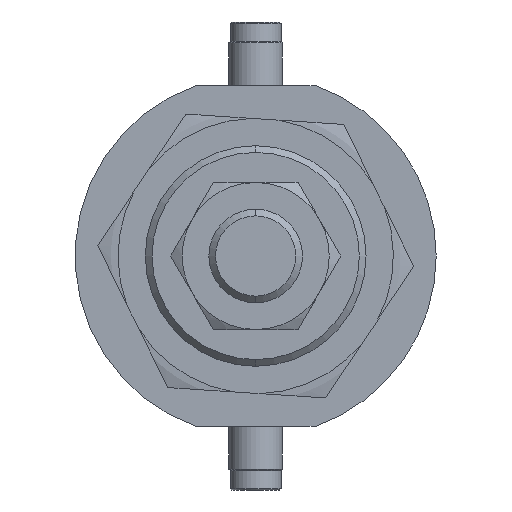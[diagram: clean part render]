
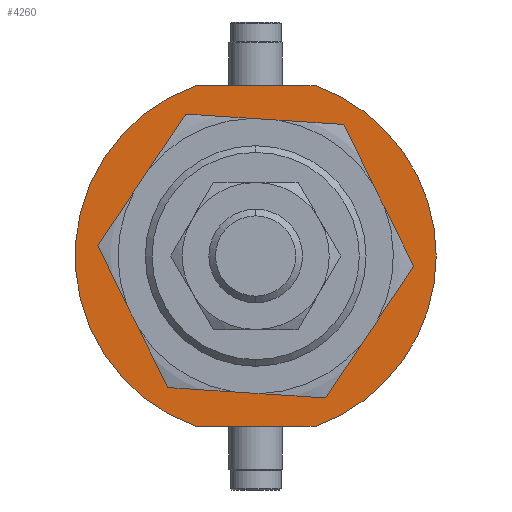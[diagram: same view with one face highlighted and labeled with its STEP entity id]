
A CAD part, left-side view. The second image highlights one B-rep face of the part: STEP entity #4260.
In plain terms, the highlighted planar face has unit normal (-1, 0, 0) as drawn and (0, 1, 0) by its records, which use the part's own axes.
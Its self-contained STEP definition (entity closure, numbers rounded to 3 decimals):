
#116 = EDGE_CURVE ( 'NONE', #4281, #1855, #1290, .T. ) ;
#128 = CARTESIAN_POINT ( 'NONE',  ( 0., 4.5, 0. ) ) ;
#350 = CIRCLE ( 'NONE', #3432, 27. ) ;
#495 = DIRECTION ( 'NONE',  ( 0., 1., 0. ) ) ;
#523 = AXIS2_PLACEMENT_3D ( 'NONE', #2272, #1588, #845 ) ;
#595 = AXIS2_PLACEMENT_3D ( 'NONE', #2807, #1079, #1471 ) ;
#677 = ORIENTED_EDGE ( 'NONE', *, *, #1472, .T. ) ;
#695 = EDGE_LOOP ( 'NONE', ( #1005, #2971 ) ) ;
#703 = CARTESIAN_POINT ( 'NONE',  ( -25.5, 4.5, -8.874 ) ) ;
#761 = DIRECTION ( 'NONE',  ( 0., 1., 0. ) ) ;
#845 = DIRECTION ( 'NONE',  ( 0., 0., 1. ) ) ;
#920 = ORIENTED_EDGE ( 'NONE', *, *, #2393, .T. ) ;
#978 = FACE_BOUND ( 'NONE', #695, .T. ) ;
#1005 = ORIENTED_EDGE ( 'NONE', *, *, #116, .F. ) ;
#1079 = DIRECTION ( 'NONE',  ( 0., 1., 0. ) ) ;
#1121 = VECTOR ( 'NONE', #2206, 1000. ) ;
#1177 = VERTEX_POINT ( 'NONE', #3026 ) ;
#1290 = CIRCLE ( 'NONE', #595, 16.5 ) ;
#1388 = DIRECTION ( 'NONE',  ( 0., 0., 1. ) ) ;
#1416 = CARTESIAN_POINT ( 'NONE',  ( 25.5, 4.5, 8.874 ) ) ;
#1456 = ORIENTED_EDGE ( 'NONE', *, *, #2792, .T. ) ;
#1471 = DIRECTION ( 'NONE',  ( 0., 0., 1. ) ) ;
#1472 = EDGE_CURVE ( 'NONE', #2275, #3843, #2838, .T. ) ;
#1565 = VERTEX_POINT ( 'NONE', #2006 ) ;
#1579 = FACE_OUTER_BOUND ( 'NONE', #3679, .T. ) ;
#1588 = DIRECTION ( 'NONE',  ( 0., 1., 0. ) ) ;
#1589 = EDGE_CURVE ( 'NONE', #1855, #4281, #2207, .T. ) ;
#1649 = CARTESIAN_POINT ( 'NONE',  ( 25.5, 4.5, -8.874 ) ) ;
#1682 = AXIS2_PLACEMENT_3D ( 'NONE', #1884, #3005, #1388 ) ;
#1780 = DIRECTION ( 'NONE',  ( 0., 0., 1. ) ) ;
#1791 = LINE ( 'NONE', #703, #3103 ) ;
#1855 = VERTEX_POINT ( 'NONE', #2723 ) ;
#1884 = CARTESIAN_POINT ( 'NONE',  ( 0., 4.5, 0. ) ) ;
#1922 = DIRECTION ( 'NONE',  ( 0., 0., 1. ) ) ;
#2004 = ORIENTED_EDGE ( 'NONE', *, *, #2461, .T. ) ;
#2006 = CARTESIAN_POINT ( 'NONE',  ( -25.5, 4.5, 8.874 ) ) ;
#2206 = DIRECTION ( 'NONE',  ( 0., 0., -1. ) ) ;
#2207 = CIRCLE ( 'NONE', #2672, 16.5 ) ;
#2272 = CARTESIAN_POINT ( 'NONE',  ( 0., 4.5, 0. ) ) ;
#2275 = VERTEX_POINT ( 'NONE', #2888 ) ;
#2393 = EDGE_CURVE ( 'NONE', #1565, #2275, #350, .T. ) ;
#2402 = CIRCLE ( 'NONE', #1682, 27. ) ;
#2415 = LINE ( 'NONE', #1649, #1121 ) ;
#2461 = EDGE_CURVE ( 'NONE', #3843, #2853, #2415, .T. ) ;
#2672 = AXIS2_PLACEMENT_3D ( 'NONE', #2923, #495, #4021 ) ;
#2698 = CARTESIAN_POINT ( 'NONE',  ( 0., 4.5, 0. ) ) ;
#2723 = CARTESIAN_POINT ( 'NONE',  ( 0., 4.5, -16.5 ) ) ;
#2769 = CARTESIAN_POINT ( 'NONE',  ( 0., 4.5, 16.5 ) ) ;
#2792 = EDGE_CURVE ( 'NONE', #1177, #1565, #1791, .T. ) ;
#2807 = CARTESIAN_POINT ( 'NONE',  ( 0., 4.5, 0. ) ) ;
#2835 = EDGE_CURVE ( 'NONE', #2853, #1177, #2402, .T. ) ;
#2838 = CIRCLE ( 'NONE', #523, 27. ) ;
#2853 = VERTEX_POINT ( 'NONE', #3161 ) ;
#2888 = CARTESIAN_POINT ( 'NONE',  ( 0., 4.5, 27. ) ) ;
#2923 = CARTESIAN_POINT ( 'NONE',  ( 0., 4.5, 0. ) ) ;
#2971 = ORIENTED_EDGE ( 'NONE', *, *, #1589, .F. ) ;
#3005 = DIRECTION ( 'NONE',  ( 0., 1., 0. ) ) ;
#3026 = CARTESIAN_POINT ( 'NONE',  ( -25.5, 4.5, -8.874 ) ) ;
#3045 = PLANE ( 'NONE',  #3048 ) ;
#3048 = AXIS2_PLACEMENT_3D ( 'NONE', #2698, #761, #1780 ) ;
#3049 = DIRECTION ( 'NONE',  ( 0., 1., 0. ) ) ;
#3103 = VECTOR ( 'NONE', #3313, 1000. ) ;
#3161 = CARTESIAN_POINT ( 'NONE',  ( 25.5, 4.5, -8.874 ) ) ;
#3313 = DIRECTION ( 'NONE',  ( 0., 0., 1. ) ) ;
#3432 = AXIS2_PLACEMENT_3D ( 'NONE', #128, #3049, #1922 ) ;
#3679 = EDGE_LOOP ( 'NONE', ( #3960, #1456, #920, #677, #2004 ) ) ;
#3843 = VERTEX_POINT ( 'NONE', #1416 ) ;
#3960 = ORIENTED_EDGE ( 'NONE', *, *, #2835, .T. ) ;
#4021 = DIRECTION ( 'NONE',  ( 0., 0., 1. ) ) ;
#4260 = ADVANCED_FACE ( 'NONE', ( #978, #1579 ), #3045, .T. ) ;
#4281 = VERTEX_POINT ( 'NONE', #2769 ) ;
